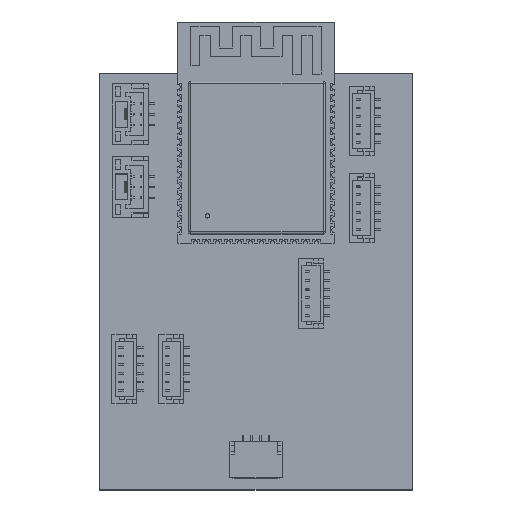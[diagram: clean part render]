
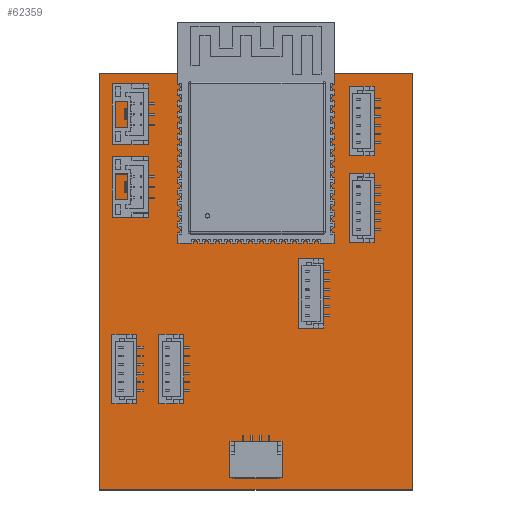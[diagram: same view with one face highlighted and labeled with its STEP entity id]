
A CAD part, top view. The second image highlights one B-rep face of the part: STEP entity #62359.
In plain terms, the highlighted planar face has unit normal (0, 0, 1).
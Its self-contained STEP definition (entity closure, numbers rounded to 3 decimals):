
#62115 = VERTEX_POINT('',#62116);
#62116 = CARTESIAN_POINT('',(36.,-48.,1.11));
#62122 = EDGE_CURVE('',#62115,#62123,#62125,.T.);
#62123 = VERTEX_POINT('',#62124);
#62124 = CARTESIAN_POINT('',(0.,-48.,1.11));
#62125 = LINE('',#62126,#62127);
#62126 = CARTESIAN_POINT('',(36.,-48.,1.11));
#62127 = VECTOR('',#62128,1.);
#62128 = DIRECTION('',(-1.,0.,0.));
#62155 = VERTEX_POINT('',#62156);
#62156 = CARTESIAN_POINT('',(36.,0.,1.11));
#62162 = EDGE_CURVE('',#62155,#62115,#62163,.T.);
#62163 = LINE('',#62164,#62165);
#62164 = CARTESIAN_POINT('',(36.,0.,1.11));
#62165 = VECTOR('',#62166,1.);
#62166 = DIRECTION('',(0.,-1.,0.));
#62184 = EDGE_CURVE('',#62123,#62185,#62187,.T.);
#62185 = VERTEX_POINT('',#62186);
#62186 = CARTESIAN_POINT('',(0.,0.,1.11));
#62187 = LINE('',#62188,#62189);
#62188 = CARTESIAN_POINT('',(0.,-48.,1.11));
#62189 = VECTOR('',#62190,1.);
#62190 = DIRECTION('',(0.,1.,0.));
#62359 = ADVANCED_FACE('',(#62360,#62371,#62382,#62393,#62404,#62415,
    #62426,#62437,#62448,#62459,#62470,#62481,#62492),#62503,.T.);
#62360 = FACE_BOUND('',#62361,.T.);
#62361 = EDGE_LOOP('',(#62362,#62363,#62364,#62370));
#62362 = ORIENTED_EDGE('',*,*,#62122,.F.);
#62363 = ORIENTED_EDGE('',*,*,#62162,.F.);
#62364 = ORIENTED_EDGE('',*,*,#62365,.F.);
#62365 = EDGE_CURVE('',#62185,#62155,#62366,.T.);
#62366 = LINE('',#62367,#62368);
#62367 = CARTESIAN_POINT('',(0.,0.,1.11));
#62368 = VECTOR('',#62369,1.);
#62369 = DIRECTION('',(1.,0.,0.));
#62370 = ORIENTED_EDGE('',*,*,#62184,.F.);
#62371 = FACE_BOUND('',#62372,.T.);
#62372 = EDGE_LOOP('',(#62373));
#62373 = ORIENTED_EDGE('',*,*,#62374,.T.);
#62374 = EDGE_CURVE('',#62375,#62375,#62377,.T.);
#62375 = VERTEX_POINT('',#62376);
#62376 = CARTESIAN_POINT('',(15.8,-10.81,1.11));
#62377 = CIRCLE('',#62378,0.15);
#62378 = AXIS2_PLACEMENT_3D('',#62379,#62380,#62381);
#62379 = CARTESIAN_POINT('',(15.8,-10.66,1.11));
#62380 = DIRECTION('',(-0.,0.,-1.));
#62381 = DIRECTION('',(-0.,-1.,0.));
#62382 = FACE_BOUND('',#62383,.T.);
#62383 = EDGE_LOOP('',(#62384));
#62384 = ORIENTED_EDGE('',*,*,#62385,.T.);
#62385 = EDGE_CURVE('',#62386,#62386,#62388,.T.);
#62386 = VERTEX_POINT('',#62387);
#62387 = CARTESIAN_POINT('',(15.1,-10.11,1.11));
#62388 = CIRCLE('',#62389,0.15);
#62389 = AXIS2_PLACEMENT_3D('',#62390,#62391,#62392);
#62390 = CARTESIAN_POINT('',(15.1,-9.96,1.11));
#62391 = DIRECTION('',(-0.,0.,-1.));
#62392 = DIRECTION('',(-0.,-1.,0.));
#62393 = FACE_BOUND('',#62394,.T.);
#62394 = EDGE_LOOP('',(#62395));
#62395 = ORIENTED_EDGE('',*,*,#62396,.T.);
#62396 = EDGE_CURVE('',#62397,#62397,#62399,.T.);
#62397 = VERTEX_POINT('',#62398);
#62398 = CARTESIAN_POINT('',(16.5,-10.11,1.11));
#62399 = CIRCLE('',#62400,0.15);
#62400 = AXIS2_PLACEMENT_3D('',#62401,#62402,#62403);
#62401 = CARTESIAN_POINT('',(16.5,-9.96,1.11));
#62402 = DIRECTION('',(-0.,0.,-1.));
#62403 = DIRECTION('',(-0.,-1.,0.));
#62404 = FACE_BOUND('',#62405,.T.);
#62405 = EDGE_LOOP('',(#62406));
#62406 = ORIENTED_EDGE('',*,*,#62407,.T.);
#62407 = EDGE_CURVE('',#62408,#62408,#62410,.T.);
#62408 = VERTEX_POINT('',#62409);
#62409 = CARTESIAN_POINT('',(17.2,-10.81,1.11));
#62410 = CIRCLE('',#62411,0.15);
#62411 = AXIS2_PLACEMENT_3D('',#62412,#62413,#62414);
#62412 = CARTESIAN_POINT('',(17.2,-10.66,1.11));
#62413 = DIRECTION('',(-0.,0.,-1.));
#62414 = DIRECTION('',(0.,-1.,0.));
#62415 = FACE_BOUND('',#62416,.T.);
#62416 = EDGE_LOOP('',(#62417));
#62417 = ORIENTED_EDGE('',*,*,#62418,.T.);
#62418 = EDGE_CURVE('',#62419,#62419,#62421,.T.);
#62419 = VERTEX_POINT('',#62420);
#62420 = CARTESIAN_POINT('',(17.2,-9.41,1.11));
#62421 = CIRCLE('',#62422,0.15);
#62422 = AXIS2_PLACEMENT_3D('',#62423,#62424,#62425);
#62423 = CARTESIAN_POINT('',(17.2,-9.26,1.11));
#62424 = DIRECTION('',(-0.,0.,-1.));
#62425 = DIRECTION('',(0.,-1.,0.));
#62426 = FACE_BOUND('',#62427,.T.);
#62427 = EDGE_LOOP('',(#62428));
#62428 = ORIENTED_EDGE('',*,*,#62429,.T.);
#62429 = EDGE_CURVE('',#62430,#62430,#62432,.T.);
#62430 = VERTEX_POINT('',#62431);
#62431 = CARTESIAN_POINT('',(17.9,-10.11,1.11));
#62432 = CIRCLE('',#62433,0.15);
#62433 = AXIS2_PLACEMENT_3D('',#62434,#62435,#62436);
#62434 = CARTESIAN_POINT('',(17.9,-9.96,1.11));
#62435 = DIRECTION('',(-0.,0.,-1.));
#62436 = DIRECTION('',(-0.,-1.,0.));
#62437 = FACE_BOUND('',#62438,.T.);
#62438 = EDGE_LOOP('',(#62439));
#62439 = ORIENTED_EDGE('',*,*,#62440,.T.);
#62440 = EDGE_CURVE('',#62441,#62441,#62443,.T.);
#62441 = VERTEX_POINT('',#62442);
#62442 = CARTESIAN_POINT('',(15.1,-8.71,1.11));
#62443 = CIRCLE('',#62444,0.15);
#62444 = AXIS2_PLACEMENT_3D('',#62445,#62446,#62447);
#62445 = CARTESIAN_POINT('',(15.1,-8.56,1.11));
#62446 = DIRECTION('',(-0.,0.,-1.));
#62447 = DIRECTION('',(-0.,-1.,0.));
#62448 = FACE_BOUND('',#62449,.T.);
#62449 = EDGE_LOOP('',(#62450));
#62450 = ORIENTED_EDGE('',*,*,#62451,.T.);
#62451 = EDGE_CURVE('',#62452,#62452,#62454,.T.);
#62452 = VERTEX_POINT('',#62453);
#62453 = CARTESIAN_POINT('',(15.8,-9.41,1.11));
#62454 = CIRCLE('',#62455,0.15);
#62455 = AXIS2_PLACEMENT_3D('',#62456,#62457,#62458);
#62456 = CARTESIAN_POINT('',(15.8,-9.26,1.11));
#62457 = DIRECTION('',(-0.,0.,-1.));
#62458 = DIRECTION('',(-0.,-1.,0.));
#62459 = FACE_BOUND('',#62460,.T.);
#62460 = EDGE_LOOP('',(#62461));
#62461 = ORIENTED_EDGE('',*,*,#62462,.T.);
#62462 = EDGE_CURVE('',#62463,#62463,#62465,.T.);
#62463 = VERTEX_POINT('',#62464);
#62464 = CARTESIAN_POINT('',(16.5,-8.71,1.11));
#62465 = CIRCLE('',#62466,0.15);
#62466 = AXIS2_PLACEMENT_3D('',#62467,#62468,#62469);
#62467 = CARTESIAN_POINT('',(16.5,-8.56,1.11));
#62468 = DIRECTION('',(-0.,0.,-1.));
#62469 = DIRECTION('',(-0.,-1.,0.));
#62470 = FACE_BOUND('',#62471,.T.);
#62471 = EDGE_LOOP('',(#62472));
#62472 = ORIENTED_EDGE('',*,*,#62473,.T.);
#62473 = EDGE_CURVE('',#62474,#62474,#62476,.T.);
#62474 = VERTEX_POINT('',#62475);
#62475 = CARTESIAN_POINT('',(15.8,-8.01,1.11));
#62476 = CIRCLE('',#62477,0.15);
#62477 = AXIS2_PLACEMENT_3D('',#62478,#62479,#62480);
#62478 = CARTESIAN_POINT('',(15.8,-7.86,1.11));
#62479 = DIRECTION('',(-0.,0.,-1.));
#62480 = DIRECTION('',(-0.,-1.,0.));
#62481 = FACE_BOUND('',#62482,.T.);
#62482 = EDGE_LOOP('',(#62483));
#62483 = ORIENTED_EDGE('',*,*,#62484,.T.);
#62484 = EDGE_CURVE('',#62485,#62485,#62487,.T.);
#62485 = VERTEX_POINT('',#62486);
#62486 = CARTESIAN_POINT('',(17.9,-8.71,1.11));
#62487 = CIRCLE('',#62488,0.15);
#62488 = AXIS2_PLACEMENT_3D('',#62489,#62490,#62491);
#62489 = CARTESIAN_POINT('',(17.9,-8.56,1.11));
#62490 = DIRECTION('',(-0.,0.,-1.));
#62491 = DIRECTION('',(-0.,-1.,0.));
#62492 = FACE_BOUND('',#62493,.T.);
#62493 = EDGE_LOOP('',(#62494));
#62494 = ORIENTED_EDGE('',*,*,#62495,.T.);
#62495 = EDGE_CURVE('',#62496,#62496,#62498,.T.);
#62496 = VERTEX_POINT('',#62497);
#62497 = CARTESIAN_POINT('',(17.2,-8.01,1.11));
#62498 = CIRCLE('',#62499,0.15);
#62499 = AXIS2_PLACEMENT_3D('',#62500,#62501,#62502);
#62500 = CARTESIAN_POINT('',(17.2,-7.86,1.11));
#62501 = DIRECTION('',(-0.,0.,-1.));
#62502 = DIRECTION('',(0.,-1.,0.));
#62503 = PLANE('',#62504);
#62504 = AXIS2_PLACEMENT_3D('',#62505,#62506,#62507);
#62505 = CARTESIAN_POINT('',(0.,0.,1.11));
#62506 = DIRECTION('',(0.,0.,1.));
#62507 = DIRECTION('',(1.,0.,-0.));
